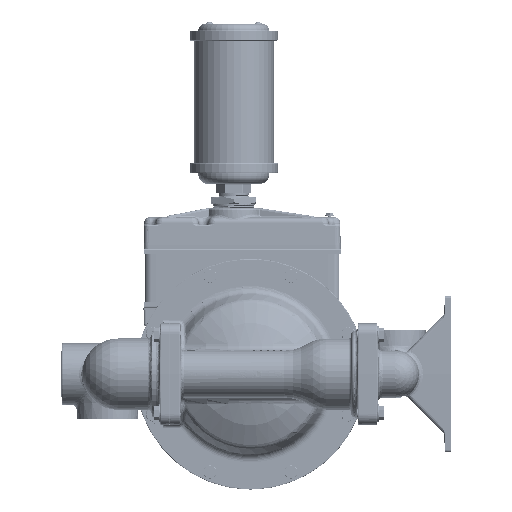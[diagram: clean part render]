
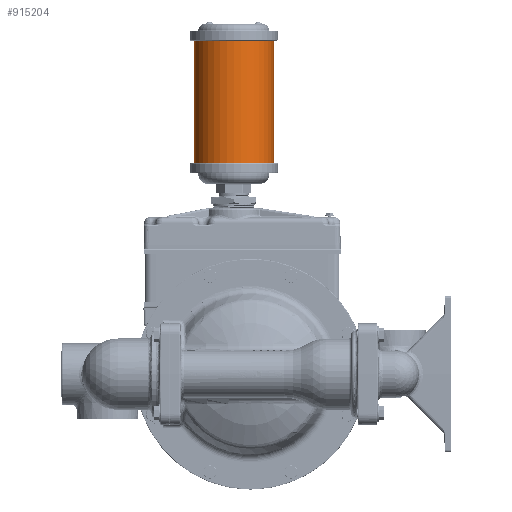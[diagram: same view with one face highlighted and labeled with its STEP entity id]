
A CAD part, left-side view. The second image highlights one B-rep face of the part: STEP entity #915204.
In plain terms, the highlighted cylindrical face has radius 45.339 mm (diameter 90.678 mm), a partial arc.
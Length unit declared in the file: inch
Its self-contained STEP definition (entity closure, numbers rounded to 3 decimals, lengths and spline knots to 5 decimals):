
#344858=DIRECTION('',(0.,0.,1.));
#344859=VECTOR('',#344858,5.5);
#344860=CARTESIAN_POINT('',(0.,2.535,9.47));
#344861=LINE('',#344860,#344859);
#344862=DIRECTION('',(0.,0.,1.));
#344863=VECTOR('',#344862,5.5);
#344864=CARTESIAN_POINT('',(0.,-1.035,9.47));
#344865=LINE('',#344864,#344863);
#344866=CARTESIAN_POINT('',(0.,0.75,9.47));
#344867=DIRECTION('',(0.,0.,1.));
#344868=DIRECTION('',(0.,1.,0.));
#344869=AXIS2_PLACEMENT_3D('',#344866,#344867,#344868);
#344891=CARTESIAN_POINT('',(0.,0.75,14.97));
#344892=DIRECTION('',(0.,0.,1.));
#344893=DIRECTION('',(0.,1.,0.));
#344894=AXIS2_PLACEMENT_3D('',#344891,#344892,#344893);
#637674=CARTESIAN_POINT('',(0.,2.535,9.47));
#637675=CARTESIAN_POINT('',(0.,2.535,14.97));
#637676=VERTEX_POINT('',#637674);
#637677=VERTEX_POINT('',#637675);
#637678=CARTESIAN_POINT('',(0.,-1.035,9.47));
#637679=CARTESIAN_POINT('',(0.,-1.035,14.97));
#637680=VERTEX_POINT('',#637678);
#637681=VERTEX_POINT('',#637679);
#915190=CARTESIAN_POINT('',(0.,0.75,16.079));
#915191=DIRECTION('',(0.,0.,-1.));
#915192=DIRECTION('',(0.,-1.,0.));
#915193=AXIS2_PLACEMENT_3D('',#915190,#915191,#915192);
#915194=CYLINDRICAL_SURFACE('',#915193,1.785);
#915196=ORIENTED_EDGE('',*,*,#915195,.T.);
#915198=ORIENTED_EDGE('',*,*,#915197,.T.);
#915200=ORIENTED_EDGE('',*,*,#915199,.F.);
#915201=ORIENTED_EDGE('',*,*,#915171,.F.);
#915202=EDGE_LOOP('',(#915196,#915198,#915200,#915201));
#915203=FACE_OUTER_BOUND('',#915202,.F.);
#915204=ADVANCED_FACE('',(#915203),#915194,.T.);
#344870=CIRCLE('',#344869,1.785);
#344895=CIRCLE('',#344894,1.785);
#915171=EDGE_CURVE('',#637676,#637680,#344870,.T.);
#915195=EDGE_CURVE('',#637676,#637677,#344861,.T.);
#915197=EDGE_CURVE('',#637677,#637681,#344895,.T.);
#915199=EDGE_CURVE('',#637680,#637681,#344865,.T.);
